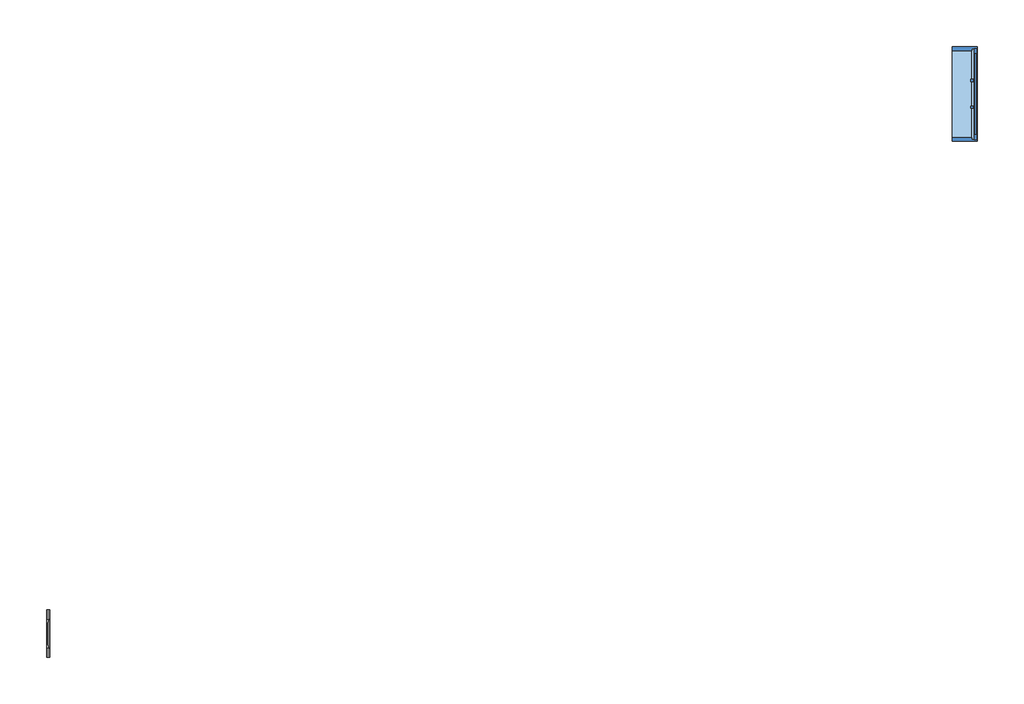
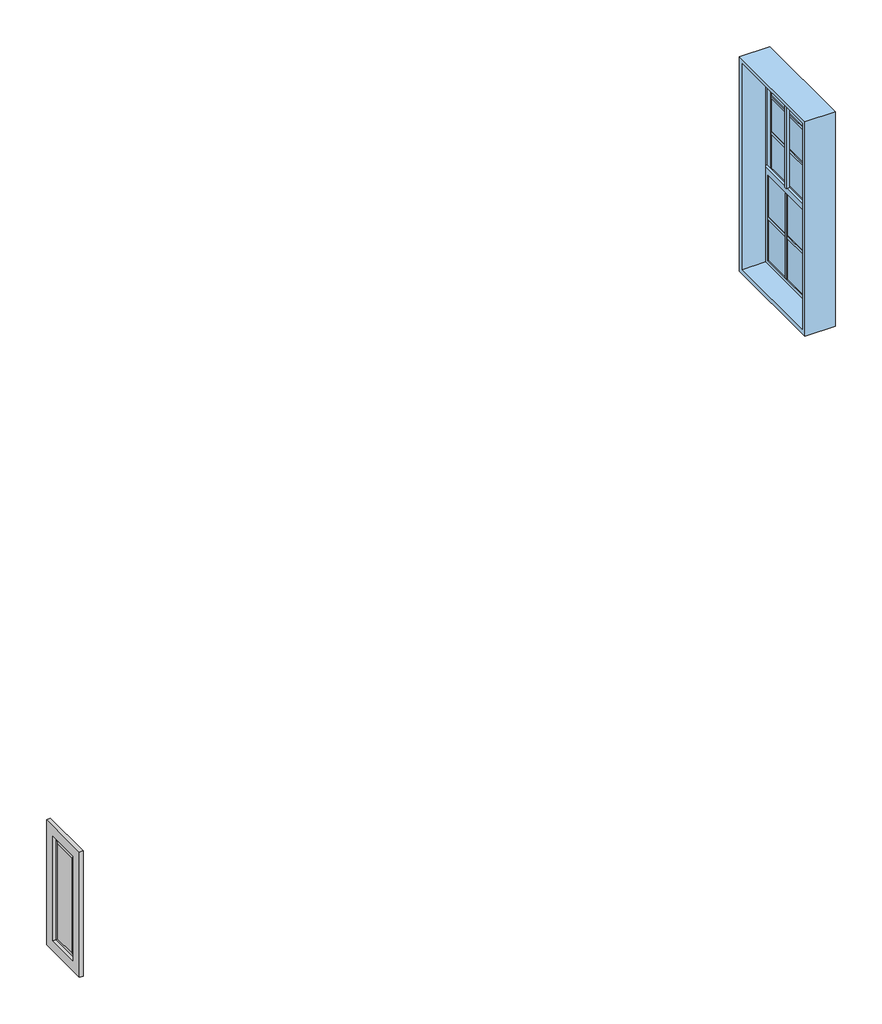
# One storey: 1 proxy, 1 window.
"""IFC4 building model written with IfcOpenShell, lengths in millimetres."""

from ifc_helpers import new_model, si_unit, origin, place, context, project, spatial, transform, mapped, element, save
from components import shutter_4292_shutter_4292_2_a29cf403, window_96_lite_window_with_shutters_3850_single_hung_3x3_51791338

model = new_model("IFC4")

# Units and contexts
model_context = context("Model", 3, world=origin())
ifc_project = project(units=[si_unit("LENGTHUNIT", "METRE", prefix="MILLI")], contexts=[model_context])

# Site, building, storey
site = spatial("IfcSite", under=ifc_project)
building = spatial("IfcBuilding", under=site)
storey = spatial("IfcBuildingStorey", under=building, Name="Stairs T.O", Elevation=2590.8)

# Proxy
placement = place(None, origin())
shutter_4292_shutter_4292_2_shape = shutter_4292_shutter_4292_2_a29cf403(model_context)
element("IfcBuildingElementProxy", 1, Name="Shutter_4292 : Shutter_4292 2", ObjectType="Shutter_4292 : Shutter_4292 2", at=placement, inside=storey, context=model_context, shape_type="MappedRepresentation", body=[
    mapped(shutter_4292_shutter_4292_2_shape, transform((-9880.0105992, -6213.6952303, 2590.8), x_axis=(0.0, 1.0, 0.0), y_axis=(-1.0, 0.0, 0.0), z_axis=(0.0, 0.0, 1.0))),
])

# Window
window_96_lite_window_with_shutters_3850_single_hung_3x3_shape = window_96_lite_window_with_shutters_3850_single_hung_3x3_51791338(model_context)
element("IfcWindow", 2, ObjectType="96_Lite_Window_with_Shutters_3850 : SINGLE HUNG 9/6 LITE", at=placement, inside=storey, context=model_context, shape_type="MappedRepresentation", body=[
    mapped(window_96_lite_window_with_shutters_3850_single_hung_3x3_shape, transform((-1164.6355992, -1240.0577303, 2590.8), x_axis=(0.0, -1.0, 0.0), y_axis=(1.0, 0.0, 0.0), z_axis=(0.0, 0.0, 1.0))),
])

save(model, "model.ifc")
